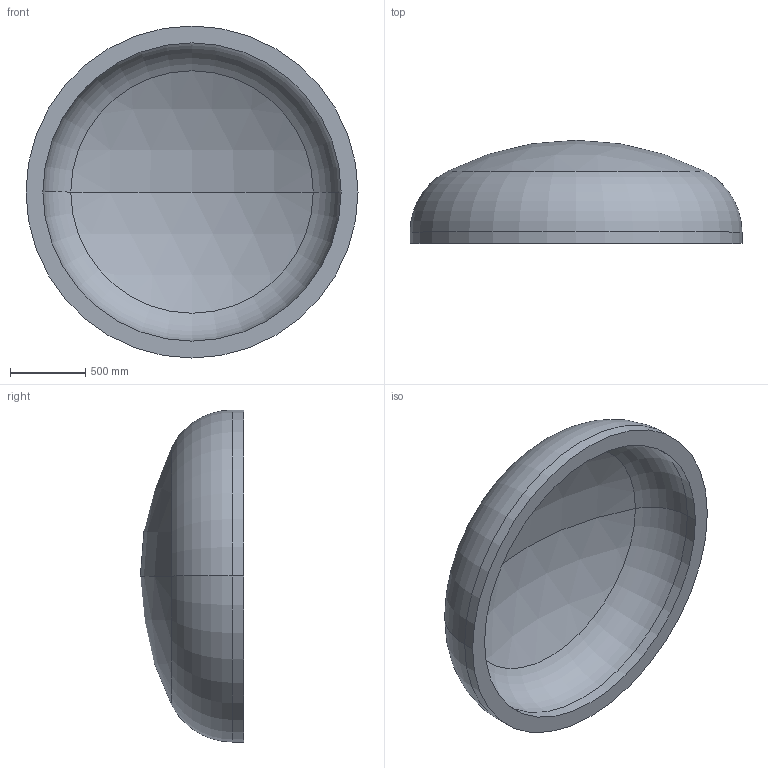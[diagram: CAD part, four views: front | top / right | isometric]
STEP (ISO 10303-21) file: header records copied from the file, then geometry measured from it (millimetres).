
FILE_DESCRIPTION (( 'STEP AP203' ), '1' );
FILE_NAME ('DIN 28013 Korbbogenform_-_Boden DIN 28013 - 2200 x 75 - I - s=112.step', '2016-07-01T14:57:53', ( '' ), ( '' ), 'SwSTEP 2.0', 'SolidWorks 2013', '' );
FILE_SCHEMA (( 'CONFIG_CONTROL_DESIGN' ));
Length unit declared in the file: millimetre
Products named in the file (1): DIN 28013 Korbbogenform_-_Boden DIN 28013 - 2200 x 75 - I - s=112
Bounding box: 2200 x 683.47 x 2200 mm (x, y, z)
Volume: 607843751.7 mm3; surface area: 11615302 mm2
Topology: 1 solids, 1 shells, 13 faces, 24 edges, 14 vertices
Faces by surface type: torus 4, cylinder 4, sphere 4, plane 1
Entity records: 407 total; most frequent: DIRECTION 72, CARTESIAN_POINT 52, ORIENTED_EDGE 48, AXIS2_PLACEMENT_3D 34, EDGE_CURVE 24, CIRCLE 20, EDGE_LOOP 14, VERTEX_POINT 14
